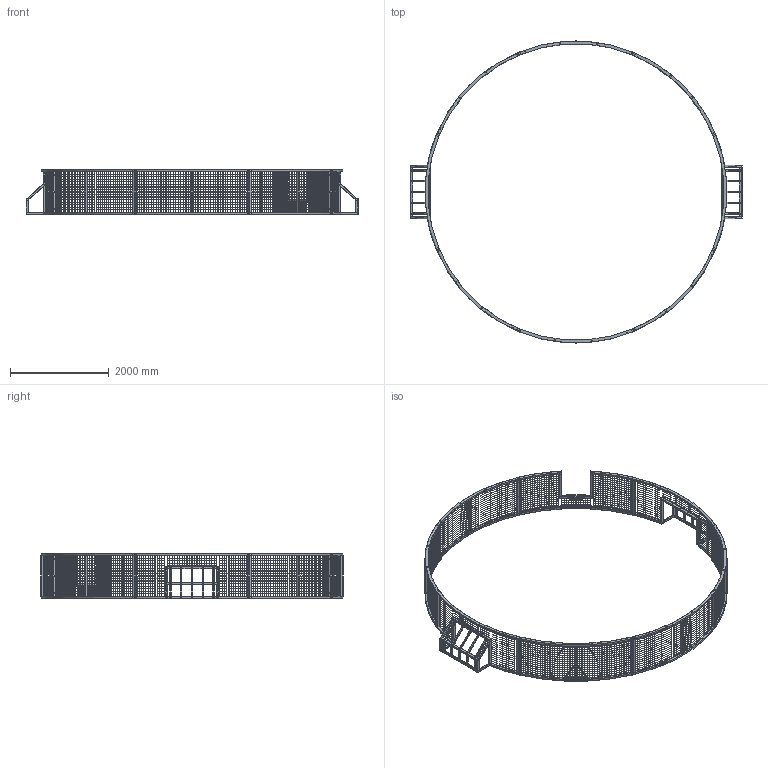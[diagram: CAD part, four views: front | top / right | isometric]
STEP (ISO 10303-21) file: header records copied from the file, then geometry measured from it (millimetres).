
FILE_DESCRIPTION(('FreeCAD Model'),'2;1');
FILE_NAME('Open CASCADE Shape Model','2026-10-30T05:57:19',('FreeCAD'),( 'FreeCAD'),'Open CASCADE STEP processor 7.8','FreeCAD','Unknown');
FILE_SCHEMA(('AUTOMOTIVE_DESIGN { 1 0 10303 214 1 1 1 1 }'));
Products named in the file (1): Open CASCADE STEP translator 7.8 1
Bounding box: 6722.51 x 6120 x 900 mm (x, y, z)
Volume: 45060311.6 mm3; surface area: 32405571.3 mm2
Topology: 774 solids, 804 shells, 4628 faces, 8942 edges, 5908 vertices
Faces by surface type: plane 2886, cylinder 1235, torus 367, cone 140
Full cylindrical faces by diameter (mm): 3 x371, 12 x70, 20 x210
Entity records: 138654 total; most frequent: CARTESIAN_POINT 40720, DIRECTION 21543, ORIENTED_EDGE 17884, EDGE_CURVE 8942, AXIS2_PLACEMENT_3D 8132, VERTEX_POINT 5908, LINE 5279, VECTOR 5279
